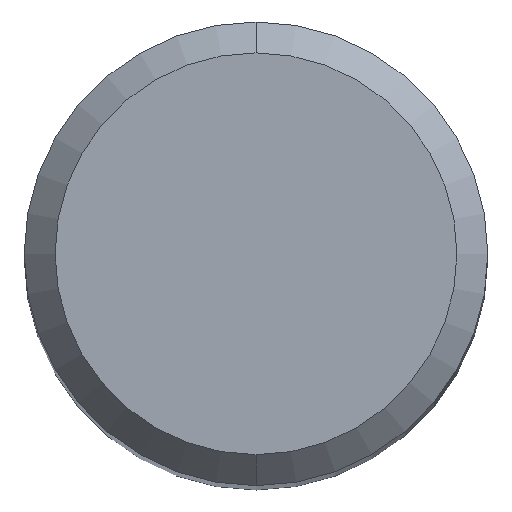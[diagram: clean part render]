
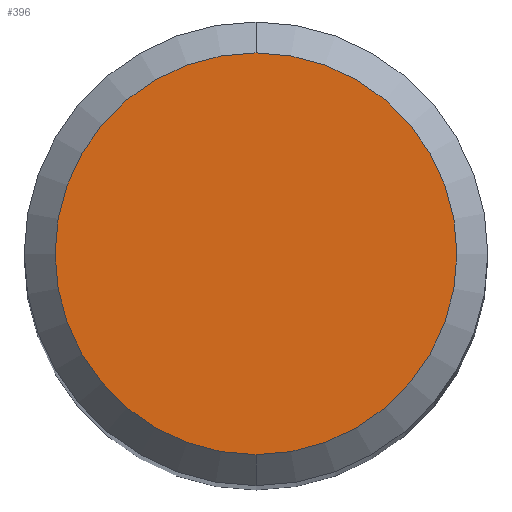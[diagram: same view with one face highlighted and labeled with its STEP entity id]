
A CAD part, top view. The second image highlights one B-rep face of the part: STEP entity #396.
In plain terms, the highlighted planar face has unit normal (0, 0, 1).
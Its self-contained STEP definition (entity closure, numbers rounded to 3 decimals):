
#190=EDGE_CURVE('',#296,#416,#502,.T.);
#296=VERTEX_POINT('',#618);
#396=ADVANCED_FACE('',(#728),#729,.T.);
#416=VERTEX_POINT('',#750);
#418=EDGE_CURVE('',#416,#296,#752,.T.);
#502=CIRCLE('',#838,2.6);
#618=CARTESIAN_POINT('',(0.,-2.6,0.0));
#728=FACE_OUTER_BOUND('',#1295,.T.);
#729=PLANE('',#1296);
#750=CARTESIAN_POINT('',(0.0,2.6,0.0));
#752=CIRCLE('',#1326,2.6);
#838=AXIS2_PLACEMENT_3D('',#1481,#1482,#1483);
#1295=EDGE_LOOP('',(#1723,#1724));
#1296=AXIS2_PLACEMENT_3D('',#1725,#1726,#1727);
#1326=AXIS2_PLACEMENT_3D('',#1745,#1746,#1747);
#1481=CARTESIAN_POINT('',(0.0,0.0,0.0));
#1482=DIRECTION('',(0.0,0.0,-1.0));
#1483=DIRECTION('',(0.0,1.0,0.0));
#1723=ORIENTED_EDGE('',*,*,#418,.F.);
#1724=ORIENTED_EDGE('',*,*,#190,.F.);
#1725=CARTESIAN_POINT('',(0.0,1.3,0.0));
#1726=DIRECTION('',(-0.0,0.0,1.0));
#1727=DIRECTION('',(0.0,-1.0,0.0));
#1745=CARTESIAN_POINT('',(0.0,0.0,0.0));
#1746=DIRECTION('',(0.0,0.0,-1.0));
#1747=DIRECTION('',(0.0,1.0,0.0));
